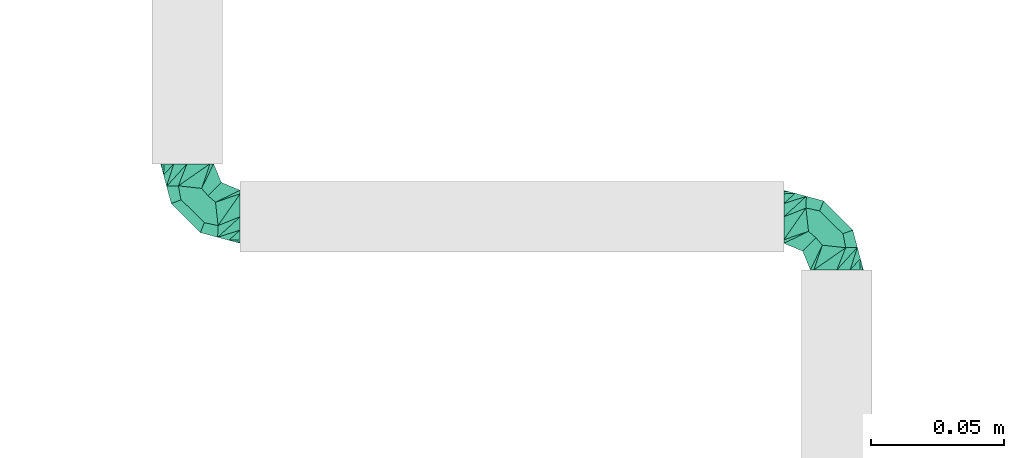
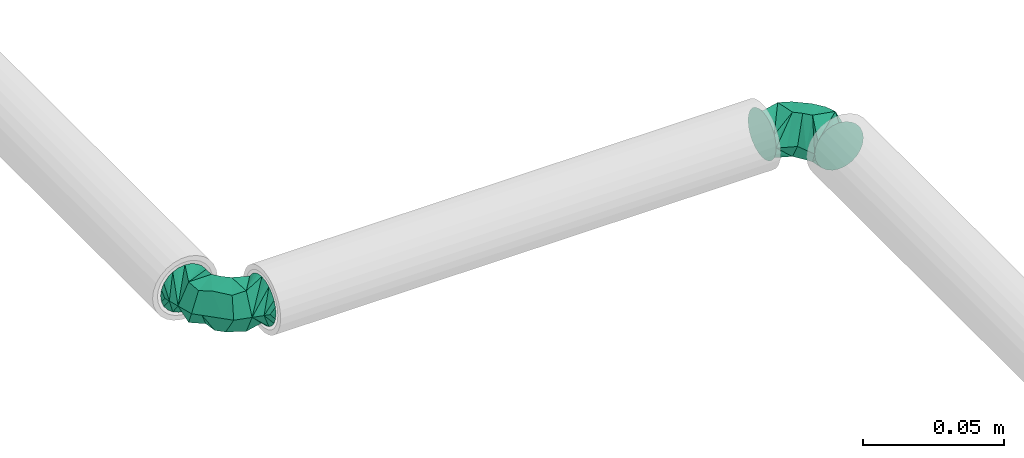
# One storey, part 102 of 156: 2 flow fittings.
"""IFC2X3 building model written with IfcOpenShell, lengths in millimetres."""

from ifc_helpers import new_model, entity, si_unit, converted_unit, derived_unit, direction, frame, origin_with_axes, place, context, subcontext, project, spatial, open_shell, surface_model, source, transform, mapped, type_object, element, save


model = new_model("IFC2X3")

# Units and contexts
model_context = context("Model", 3, precision=0.01, world=frame((0.0, 4.29681676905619e-09, 0.0)), true_north=direction((4.01073788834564e-13, 1.0)))
plan_context = context("Plan", 3, precision=0.01, world=frame((0.0, 4.29681676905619e-09, 0.0)), true_north=direction((4.01073788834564e-13, 1.0)))
body_context = subcontext(model_context, "Body", "Model", "MODEL_VIEW")
ifc_project = project(units=[converted_unit("PLANEANGLEUNIT", "DEGREE", entity("IfcPositiveLengthMeasure", 0.0174532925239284), si_unit("PLANEANGLEUNIT", "RADIAN"), dimensions=[0, 0, 0, 0, 0, 0, 0]), si_unit("AREAUNIT", "SQUARE_METRE"), si_unit("LENGTHUNIT", "METRE", prefix="MILLI"), si_unit("MASSUNIT", "GRAM", prefix="KILO"), si_unit("POWERUNIT", "WATT"), si_unit("PRESSUREUNIT", "PASCAL", prefix="KILO"), si_unit("FORCEUNIT", "NEWTON", prefix="KILO"), si_unit("ELECTRICVOLTAGEUNIT", "VOLT"), si_unit("ELECTRICCURRENTUNIT", "AMPERE"), si_unit("THERMODYNAMICTEMPERATUREUNIT", "DEGREE_CELSIUS"), si_unit("TIMEUNIT", "SECOND"), si_unit("VOLUMEUNIT", "CUBIC_METRE"), derived_unit("LINEARVELOCITYUNIT", [(si_unit("LENGTHUNIT", "METRE"), 1), (si_unit("TIMEUNIT", "SECOND"), -1)]), derived_unit("VOLUMETRICFLOWRATEUNIT", [(si_unit("VOLUMEUNIT", "CUBIC_METRE"), 1), (si_unit("TIMEUNIT", "SECOND"), -1)]), derived_unit("THERMALTRANSMITTANCEUNIT", [(si_unit("POWERUNIT", "WATT"), 1), (si_unit("THERMODYNAMICTEMPERATUREUNIT", "KELVIN"), -1), (si_unit("AREAUNIT", "SQUARE_METRE"), -1)]), derived_unit("SOUNDPRESSUREUNIT", [(si_unit("PRESSUREUNIT", "PASCAL"), 1)])], contexts=[model_context, plan_context])

# Site, building, storey
site_placement = place(None, frame((0.0, -4.29681676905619e-09, 0.0), z_axis=(0.0, 0.0, 1.0), x_axis=(1.0, 0.0, 0.0)))
site = spatial("IfcSite", under=ifc_project, at=site_placement, CompositionType="ELEMENT")
building_placement = place(site_placement, frame((0.0, 4.29681676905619e-09, 0.0), z_axis=(0.0, 0.0, 1.0), x_axis=(1.0, 0.0, 0.0)))
building = spatial("IfcBuilding", under=site, at=building_placement, Name="mc-building", CompositionType="ELEMENT")
storey_placement = place(building_placement, frame((0.0, 0.0, 205200.0), z_axis=(0.0, 0.0, 1.0), x_axis=(1.0, 0.0, 0.0)))
storey = spatial("IfcBuildingStorey", under=building, at=storey_placement, Name="Nivå D + 1,2 m", CompositionType="ELEMENT", Elevation=205200.0)

# Flow fittings
pipe_fitting_type = type_object("IfcPipeFittingType", Name="magi_pipe_elbow_short_001", PredefinedType="BEND")
shared_shape = source(origin_with_axes(), body_context, "Body", "SurfaceModel", [
    surface_model("IfcShellBasedSurfaceModel", [(-20.0, 2.58819, -9.65926), (-20.0, 0.0, -10.0), (-20.0, 7.07107, -7.07107), (-20.0, 5.0, -8.66025), (-20.0, 8.66025, -5.0), (-20.0, 10.0, 0.0), (-20.0, -7.07107, -7.07107), (-20.0, 8.66025, 5.0), (-20.0, -5.0, -8.66025), (-20.0, -2.58819, -9.65926), (-20.0, -9.65926, -2.58819), (-20.0, -10.0, 0.0), (-20.0, -8.66025, -5.0), (-20.0, 9.65926, -2.58819), (-20.0, 9.65926, 2.58819), (-20.0, -7.07107, 7.07107), (-20.0, 2.58819, 9.65926), (-20.0, 5.0, 8.66025), (-20.0, 7.07107, 7.07107), (-20.0, -9.65926, 2.58819), (-20.0, -8.66025, 5.0), (-20.0, -5.0, 8.66025), (-20.0, -2.58819, 9.65926), (-20.0, 0.0, 10.0), (-7.07107, 20.0, -7.07107), (0.0, 20.0, -10.0), (-2.58819, 20.0, -9.65926), (-5.0, 20.0, -8.66025), (-8.66025, 20.0, -5.0), (-9.65926, 20.0, -2.58819), (7.07107, 20.0, -7.07107), (7.07107, 20.0, 7.07107), (10.0, 20.0, 0.0), (2.58819, 20.0, -9.65926), (5.0, 20.0, -8.66025), (8.66025, 20.0, -5.0), (9.65926, 20.0, -2.58819), (-10.0, 20.0, 0.0), (-9.65926, 20.0, 2.58819), (-8.66025, 20.0, 5.0), (-5.0, 20.0, 8.66025), (-2.58819, 20.0, 9.65926), (-7.07107, 20.0, 7.07107), (8.66025, 20.0, 5.0), (9.65926, 20.0, 2.58819), (2.58819, 20.0, 9.65926), (5.0, 20.0, 8.66025), (0.0, 20.0, 10.0), (-17.87793, -9.43139, 0.0), (-11.67854, -3.30277, 8.80309), (-11.51174, -7.72558, 0.0), (-5.0, -5.98076, 0.0), (0.49038, -0.49038, 0.0), (3.23557, 2.25481, 0.0), (-3.00235, 1.31763, 8.50627), (-2.25481, -3.23557, 0.0), (-15.75587, -8.86279, 0.0), (-7.9072, 7.9072, 9.57081), (-5.48863, 10.70234, 9.60998), (3.30277, 11.67854, 8.80309), (2.23652, 6.49877, 7.98923), (5.98076, 5.0, 0.0), (-6.37351, -2.31024, 7.89115), (9.43139, 17.87793, 0.0), (8.86279, 15.75587, 0.0), (-10.70234, 5.48863, 9.60998), (-11.46447, 16.46447, 0.0), (-16.46447, 11.46447, 0.0), (-12.92893, 12.92893, 0.0), (7.72558, 11.51174, 0.0), (-11.67854, -3.30277, -8.80309), (-5.48863, 10.70234, -9.60998), (0.95389, 4.58311, -7.98923), (-2.98658, 2.37818, -8.93301), (3.30277, 11.67854, -8.80309), (-15.18942, 8.10709, -6.96969), (-9.44839, 2.43097, -9.98779), (-10.92697, 9.01343, -8.1806)], [open_shell([[[0, 1, 2]], [[3, 0, 2]], [[4, 2, 5]], [[6, 2, 1]], [[6, 7, 2]], [[8, 6, 9]], [[6, 1, 9]], [[10, 11, 12]], [[6, 12, 11]], [[11, 7, 6]], [[13, 4, 5]], [[7, 14, 5]], [[11, 15, 7]], [[7, 16, 17]], [[18, 7, 17]], [[16, 7, 15]], [[11, 19, 20]], [[11, 20, 15]], [[21, 22, 15]], [[22, 16, 15]], [[16, 22, 23]], [[7, 5, 2]], [[24, 25, 26]], [[24, 26, 27]], [[24, 28, 29]], [[25, 24, 30]], [[31, 32, 24]], [[33, 30, 34]], [[33, 25, 30]], [[35, 32, 36]], [[32, 35, 30]], [[24, 32, 30]], [[24, 29, 31]], [[37, 38, 39]], [[29, 39, 31]], [[40, 41, 39]], [[40, 39, 42]], [[31, 39, 41]], [[32, 43, 44]], [[31, 43, 32]], [[31, 45, 46]], [[31, 41, 45]], [[47, 45, 41]], [[29, 37, 39]], [[19, 48, 20]], [[49, 50, 51]], [[52, 53, 54]], [[54, 55, 52]], [[21, 15, 56]], [[20, 56, 15]], [[57, 54, 58]], [[21, 50, 22]], [[23, 22, 50]], [[59, 60, 61]], [[59, 58, 60]], [[55, 54, 62]], [[23, 50, 49]], [[23, 49, 16]], [[62, 49, 51]], [[62, 51, 55]], [[43, 63, 44]], [[49, 17, 16]], [[64, 63, 43]], [[14, 65, 5]], [[7, 18, 49]], [[54, 65, 62]], [[17, 49, 18]], [[58, 37, 66]], [[67, 57, 68]], [[53, 60, 54]], [[45, 47, 69]], [[69, 46, 45]], [[42, 59, 40]], [[41, 59, 47]], [[31, 46, 64]], [[68, 57, 66]], [[64, 46, 69]], [[61, 60, 53]], [[44, 63, 32]], [[59, 61, 69]], [[37, 58, 38]], [[21, 56, 50]], [[54, 57, 65]], [[49, 65, 7]], [[66, 57, 58]], [[64, 43, 31]], [[39, 38, 58]], [[7, 65, 14]], [[42, 39, 59]], [[19, 11, 48]], [[39, 58, 59]], [[48, 56, 20]], [[40, 59, 41]], [[59, 69, 47]], [[49, 62, 65]], [[57, 67, 65]], [[54, 60, 58]], [[67, 5, 65]], [[70, 50, 1]], [[71, 72, 73]], [[74, 71, 28]], [[70, 0, 3]], [[70, 51, 50]], [[36, 32, 63]], [[75, 2, 4]], [[75, 13, 5]], [[4, 13, 75]], [[51, 76, 55]], [[75, 5, 67]], [[70, 2, 75]], [[48, 11, 10]], [[8, 56, 6]], [[1, 50, 9]], [[51, 70, 76]], [[56, 8, 50]], [[8, 9, 50]], [[70, 1, 0]], [[66, 37, 71]], [[52, 72, 53]], [[2, 70, 3]], [[70, 75, 76]], [[73, 52, 55]], [[71, 68, 66]], [[61, 53, 72]], [[34, 64, 69]], [[29, 71, 37]], [[24, 74, 28]], [[56, 12, 6]], [[27, 26, 74]], [[63, 64, 35]], [[56, 48, 12]], [[27, 74, 24]], [[12, 48, 10]], [[25, 74, 26]], [[33, 69, 25]], [[28, 71, 29]], [[30, 64, 34]], [[69, 33, 34]], [[68, 71, 77]], [[74, 25, 69]], [[35, 36, 63]], [[61, 72, 74]], [[61, 74, 69]], [[67, 77, 75]], [[74, 72, 71]], [[35, 64, 30]], [[76, 77, 73]], [[75, 77, 76]], [[77, 71, 73]], [[55, 76, 73]], [[72, 52, 73]], [[77, 67, 68]]])]),
])
for number, where, z_axis, x_axis, name in (
    (1, (328982.77865, 467178.13689, 4122.79999), (0.0, 0.0, 1.0), (0.0, -1.0, 0.0), "magi_pipe_elbow_short_001"),
    (2, (329227.77865, 467178.13689, 4122.79999), (0.0, 0.0, 1.0), (0.0, 1.0, 0.0), "magi_pipe_elbow_short_001"),
):
    element("IfcFlowFitting", number, at=place(storey_placement, frame(where, z_axis=z_axis, x_axis=x_axis)), inside=storey, type_object=pipe_fitting_type, Name=name, context=body_context, shape_type="MappedRepresentation", body=[
        mapped(shared_shape, transform((0.0, 0.0, 0.0), scale=1.0)),
    ])

save(model, "model.ifc")
